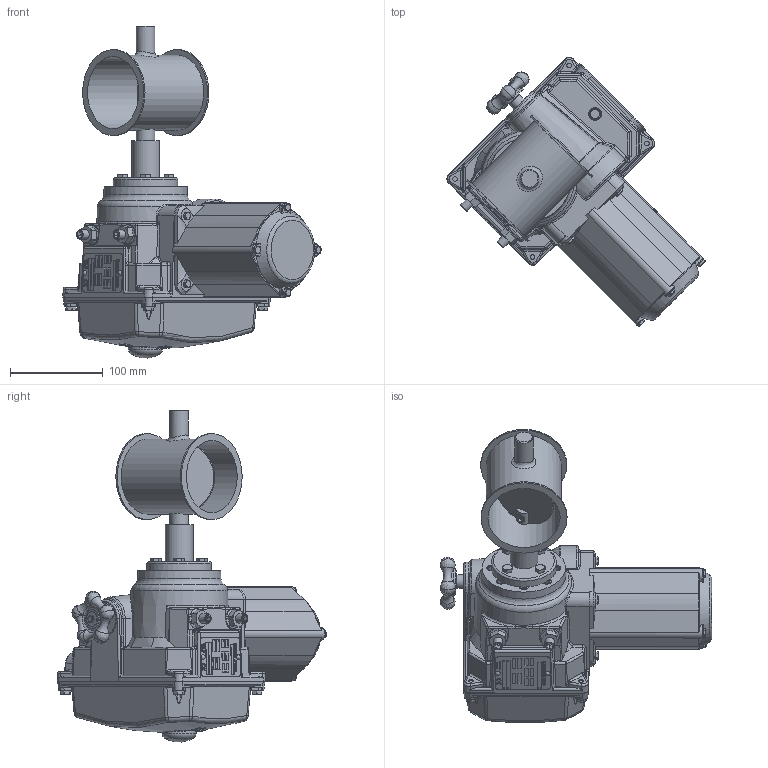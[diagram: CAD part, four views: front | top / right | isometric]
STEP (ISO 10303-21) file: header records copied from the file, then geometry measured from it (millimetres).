
FILE_DESCRIPTION((''),'2;1');
FILE_NAME('U:\Wolfgang\Marcel-3D\fertig\Kapitel 8\0821217.stp','2011-05-03T15:07:08',('TK1'),(''),'Autodesk Inventor 2010','Autodesk Inventor 2010','');
FILE_SCHEMA(('AUTOMOTIVE_DESIGN { 1 0 10303 214 1 1 1 1 }'));
Length unit declared in the file: millimetre
Products named in the file (9): 0821217; Bolzen D15; Scheibe80; DIN 6912 M6 x 16; D15 Antrieb Le-4; BuchseD15 70-50; DIN EN ISO 4018 M6x25; LEB45cc; 0811075-1
Assembly tree (13 placements, depth 3):
  0821217
    Bolzen D15  x2
    Scheibe80
    DIN 6912 M6 x 16  x2
    D15 Antrieb Le-4
      BuchseD15 70-50
      DIN EN ISO 4018 M6x25  x4
      LEB45cc
    0811075-1
Bounding box: 279.16 x 291.15 x 358.82 mm (x, y, z)
Volume: 4157272.1 mm3; surface area: 332710.9 mm2
Topology: 12 solids, 12 shells, 1478 faces, 3727 edges, 2340 vertices
Faces by surface type: plane 750, cylinder 283, bspline 237, torus 82, cone 81, sphere 45
Full cylindrical faces by diameter (mm): 3 x2, 5 x4, 5.1 x8, 6 x14, 6.9 x8, 10 x6, 14 x2, 15 x3, 15.5 x1, 16 x1, 17 x1, 18.6 x2, 20 x2, 24 x1, 30 x1, 35 x1, 42 x1, 70 x1, 78 x2, 81 x1, 93 x2
Entity records: 51109 total; most frequent: CARTESIAN_POINT 19078, ORIENTED_EDGE 6604, DIRECTION 5780, EDGE_CURVE 3302, VERTEX_POINT 2173, AXIS2_PLACEMENT_3D 2030, VECTOR 1720, LINE 1720
